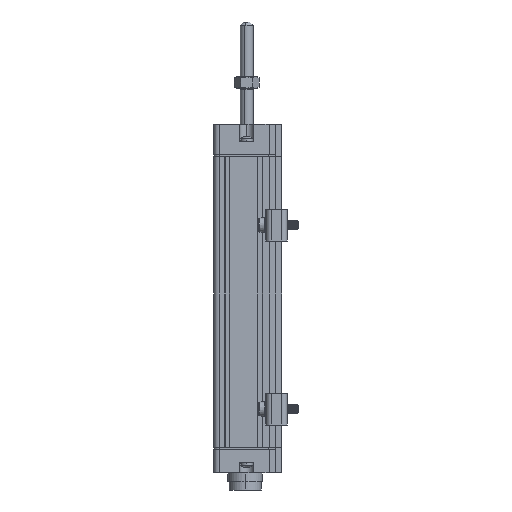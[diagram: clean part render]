
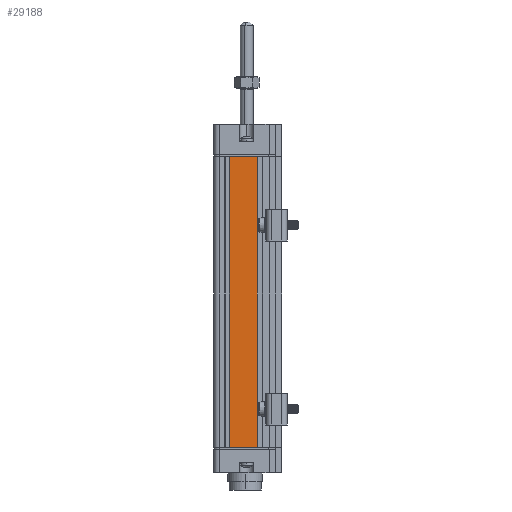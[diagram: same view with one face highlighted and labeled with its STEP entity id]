
A CAD part, left-side view. The second image highlights one B-rep face of the part: STEP entity #29188.
In plain terms, the highlighted planar face has unit normal (-1, 0, 0).
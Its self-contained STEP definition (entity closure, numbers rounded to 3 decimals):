
#1328 = VERTEX_POINT ( 'NONE', #3150 ) ;
#2055 = CARTESIAN_POINT ( 'NONE',  ( 0., 11.6, -136.5 ) ) ;
#2982 = CARTESIAN_POINT ( 'NONE',  ( 0., 11.6, 0. ) ) ;
#3150 = CARTESIAN_POINT ( 'NONE',  ( 0., 11.6, -136.5 ) ) ;
#3220 = VECTOR ( 'NONE', #17805, 1000. ) ;
#4065 = LINE ( 'NONE', #2982, #8811 ) ;
#4407 = DIRECTION ( 'NONE',  ( 0., 0., 1. ) ) ;
#4983 = EDGE_CURVE ( 'NONE', #25119, #13592, #20483, .T. ) ;
#5042 = ORIENTED_EDGE ( 'NONE', *, *, #30403, .T. ) ;
#6076 = CARTESIAN_POINT ( 'NONE',  ( 0., 24.4, -136.5 ) ) ;
#6912 = EDGE_CURVE ( 'NONE', #13592, #19973, #4065, .T. ) ;
#7798 = DIRECTION ( 'NONE',  ( 0., -1., 0. ) ) ;
#8811 = VECTOR ( 'NONE', #14672, 1000. ) ;
#10055 = CARTESIAN_POINT ( 'NONE',  ( 0., 11.6, -136.5 ) ) ;
#10781 = LINE ( 'NONE', #10055, #16301 ) ;
#10971 = ORIENTED_EDGE ( 'NONE', *, *, #16554, .T. ) ;
#11531 = CARTESIAN_POINT ( 'NONE',  ( 0., 24.4, -136.5 ) ) ;
#11580 = LINE ( 'NONE', #11726, #17840 ) ;
#11726 = CARTESIAN_POINT ( 'NONE',  ( 0., 11.6, -136.5 ) ) ;
#12319 = ORIENTED_EDGE ( 'NONE', *, *, #6912, .F. ) ;
#13592 = VERTEX_POINT ( 'NONE', #28277 ) ;
#13735 = PLANE ( 'NONE',  #28749 ) ;
#13781 = FACE_OUTER_BOUND ( 'NONE', #18427, .T. ) ;
#14672 = DIRECTION ( 'NONE',  ( 0., -1., 0. ) ) ;
#16301 = VECTOR ( 'NONE', #7798, 1000. ) ;
#16554 = EDGE_CURVE ( 'NONE', #1328, #19973, #11580, .T. ) ;
#17805 = DIRECTION ( 'NONE',  ( 0., 0., 1. ) ) ;
#17840 = VECTOR ( 'NONE', #25832, 1000. ) ;
#18427 = EDGE_LOOP ( 'NONE', ( #12319, #27788, #5042, #10971 ) ) ;
#18490 = DIRECTION ( 'NONE',  ( -1., 0., 0. ) ) ;
#19973 = VERTEX_POINT ( 'NONE', #26359 ) ;
#20483 = LINE ( 'NONE', #6076, #3220 ) ;
#25119 = VERTEX_POINT ( 'NONE', #11531 ) ;
#25832 = DIRECTION ( 'NONE',  ( 0., 0., 1. ) ) ;
#26359 = CARTESIAN_POINT ( 'NONE',  ( 0., 11.6, 0. ) ) ;
#27788 = ORIENTED_EDGE ( 'NONE', *, *, #4983, .F. ) ;
#28277 = CARTESIAN_POINT ( 'NONE',  ( 0., 24.4, 0. ) ) ;
#28749 = AXIS2_PLACEMENT_3D ( 'NONE', #2055, #18490, #4407 ) ;
#29188 = ADVANCED_FACE ( 'NONE', ( #13781 ), #13735, .T. ) ;
#30403 = EDGE_CURVE ( 'NONE', #25119, #1328, #10781, .T. ) ;
